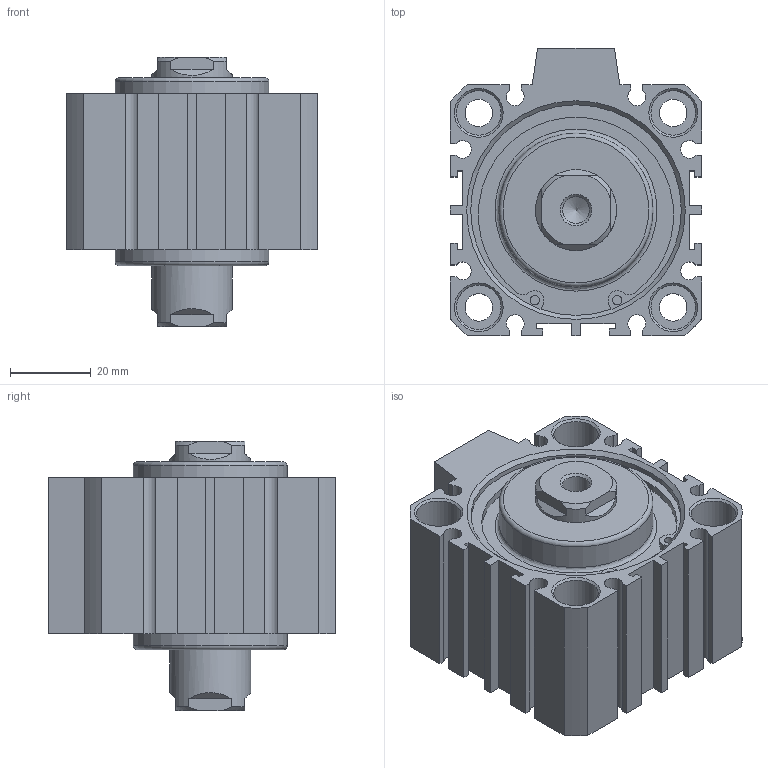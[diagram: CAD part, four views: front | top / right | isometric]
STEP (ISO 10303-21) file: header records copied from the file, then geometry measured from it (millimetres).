
FILE_DESCRIPTION((''),'2;1');
FILE_NAME('I:\3D電子目錄\氣缸\JDD\JDD\JDD50\JDD50x10.stp','2007-02-08T11:07:09',('662F206'),(''),'Autodesk Inventor 10','Autodesk Inventor 10','');
FILE_SCHEMA(('AUTOMOTIVE_DESIGN { 1 0 10303 214 1 1 1 1 }'));
Length unit declared in the file: millimetre
Products named in the file (3): JDD50; R 形環 52
Assembly tree (3 placements, depth 2):
  JDD50
    JDD50
    R 形環 52  x2
Bounding box: 62 x 71 x 66.6 mm (x, y, z)
Volume: 136478.8 mm3; surface area: 36603 mm2
Topology: 3 solids, 3 shells, 200 faces, 502 edges, 330 vertices
Faces by surface type: plane 116, cylinder 52, cone 24, bspline 6, torus 2
Full cylindrical faces by diameter (mm): 2.3 x4, 2.7 x2, 6.8 x4, 11 x8, 20 x2, 38 x2, 52 x4, 55 x2
Entity records: 5511 total; most frequent: CARTESIAN_POINT 1094, DIRECTION 908, ORIENTED_EDGE 824, EDGE_CURVE 412, AXIS2_PLACEMENT_3D 324, VERTEX_POINT 300, EDGE_LOOP 272, VECTOR 260
